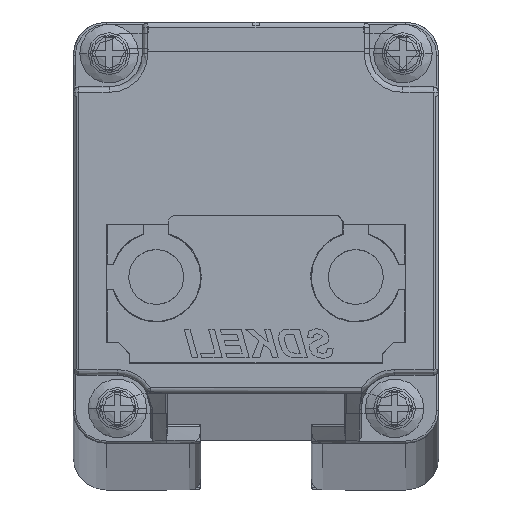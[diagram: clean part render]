
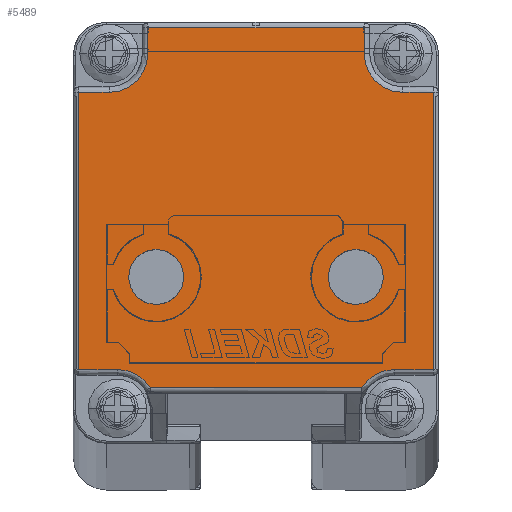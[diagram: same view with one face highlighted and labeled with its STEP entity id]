
A CAD part, top view. The second image highlights one B-rep face of the part: STEP entity #5489.
In plain terms, the highlighted planar face has unit normal (0, 0, 1).
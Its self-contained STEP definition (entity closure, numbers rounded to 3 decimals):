
#2552=CARTESIAN_POINT('',(4.,3.152,490.));
#2553=DIRECTION('',(0.,0.,1.));
#2554=DIRECTION('',(0.849,0.528,0.));
#2555=AXIS2_PLACEMENT_3D('',#2552,#2553,#2554);
#2557=CARTESIAN_POINT('',(3.25,35.15,490.));
#2558=DIRECTION('',(0.,0.,1.));
#2559=DIRECTION('',(0.,-1.,0.));
#2560=AXIS2_PLACEMENT_3D('',#2557,#2558,#2559);
#2562=CARTESIAN_POINT('',(29.75,35.15,490.));
#2563=DIRECTION('',(0.,0.,1.));
#2564=DIRECTION('',(-1.,0.,0.));
#2565=AXIS2_PLACEMENT_3D('',#2562,#2563,#2564);
#2567=CARTESIAN_POINT('',(29.,3.152,490.));
#2568=DIRECTION('',(0.,0.,1.));
#2569=DIRECTION('',(0.,1.,0.));
#2570=AXIS2_PLACEMENT_3D('',#2567,#2568,#2569);
#2572=CARTESIAN_POINT('',(7.5,15.002,490.));
#2573=DIRECTION('',(0.,0.,1.));
#2574=DIRECTION('',(1.,0.007,0.));
#2575=AXIS2_PLACEMENT_3D('',#2572,#2573,#2574);
#2577=CARTESIAN_POINT('',(7.5,15.002,490.));
#2578=DIRECTION('',(0.,0.,1.));
#2579=DIRECTION('',(-1.,-0.007,0.));
#2580=AXIS2_PLACEMENT_3D('',#2577,#2578,#2579);
#2582=CARTESIAN_POINT('',(25.5,15.,490.));
#2583=DIRECTION('',(0.,0.,1.));
#2584=DIRECTION('',(1.,-0.007,0.));
#2585=AXIS2_PLACEMENT_3D('',#2582,#2583,#2584);
#2587=CARTESIAN_POINT('',(25.5,15.,490.));
#2588=DIRECTION('',(0.,0.,1.));
#2589=DIRECTION('',(-1.,0.007,0.));
#2590=AXIS2_PLACEMENT_3D('',#2587,#2588,#2589);
#2632=DIRECTION('',(1.,0.,0.));
#2633=VECTOR('',#2632,19.056);
#2634=CARTESIAN_POINT('',(6.972,5.,490.));
#2635=LINE('',#2634,#2633);
#2957=DIRECTION('',(0.,1.,0.));
#2958=VECTOR('',#2957,2.35);
#2959=CARTESIAN_POINT('',(26.25,35.15,490.));
#2960=LINE('',#2959,#2958);
#2980=DIRECTION('',(-1.,0.,0.));
#2981=VECTOR('',#2980,19.5);
#2982=CARTESIAN_POINT('',(26.25,37.5,490.));
#2983=LINE('',#2982,#2981);
#3004=DIRECTION('',(0.,-1.,0.));
#3005=VECTOR('',#3004,2.35);
#3006=CARTESIAN_POINT('',(6.75,37.5,490.));
#3007=LINE('',#3006,#3005);
#3031=DIRECTION('',(-1.,0.,0.));
#3032=VECTOR('',#3031,2.75);
#3033=CARTESIAN_POINT('',(3.25,31.65,490.));
#3034=LINE('',#3033,#3032);
#3185=DIRECTION('',(0.,-1.,0.));
#3186=VECTOR('',#3185,24.998);
#3187=CARTESIAN_POINT('',(0.5,31.65,490.));
#3188=LINE('',#3187,#3186);
#3224=DIRECTION('',(1.,0.,0.));
#3225=VECTOR('',#3224,3.5);
#3226=CARTESIAN_POINT('',(0.5,6.652,490.));
#3227=LINE('',#3226,#3225);
#3590=DIRECTION('',(-1.,0.,0.));
#3591=VECTOR('',#3590,2.75);
#3592=CARTESIAN_POINT('',(32.5,31.65,490.));
#3593=LINE('',#3592,#3591);
#3740=DIRECTION('',(1.,0.,0.));
#3741=VECTOR('',#3740,3.5);
#3742=CARTESIAN_POINT('',(29.,6.652,490.));
#3743=LINE('',#3742,#3741);
#3775=DIRECTION('',(0.,1.,0.));
#3776=VECTOR('',#3775,24.998);
#3777=CARTESIAN_POINT('',(32.5,6.652,490.));
#3778=LINE('',#3777,#3776);
#4816=CARTESIAN_POINT('',(10.,15.018,490.));
#4817=VERTEX_POINT('',#4816);
#4818=CARTESIAN_POINT('',(5.,14.986,490.));
#4819=VERTEX_POINT('',#4818);
#4820=CARTESIAN_POINT('',(6.972,5.,490.));
#4821=CARTESIAN_POINT('',(4.,6.652,490.));
#4822=VERTEX_POINT('',#4820);
#4823=VERTEX_POINT('',#4821);
#4824=CARTESIAN_POINT('',(0.5,6.652,490.));
#4825=VERTEX_POINT('',#4824);
#4826=CARTESIAN_POINT('',(0.5,31.65,490.));
#4827=VERTEX_POINT('',#4826);
#4828=CARTESIAN_POINT('',(3.25,31.65,490.));
#4829=VERTEX_POINT('',#4828);
#4830=CARTESIAN_POINT('',(6.75,35.15,490.));
#4831=VERTEX_POINT('',#4830);
#4832=CARTESIAN_POINT('',(6.75,37.5,490.));
#4833=VERTEX_POINT('',#4832);
#4834=CARTESIAN_POINT('',(26.25,37.5,490.));
#4835=VERTEX_POINT('',#4834);
#4836=CARTESIAN_POINT('',(26.25,35.15,490.));
#4837=VERTEX_POINT('',#4836);
#4838=CARTESIAN_POINT('',(29.75,31.65,490.));
#4839=VERTEX_POINT('',#4838);
#4840=CARTESIAN_POINT('',(32.5,31.65,490.));
#4841=VERTEX_POINT('',#4840);
#4842=CARTESIAN_POINT('',(32.5,6.652,490.));
#4843=VERTEX_POINT('',#4842);
#4844=CARTESIAN_POINT('',(29.,6.652,490.));
#4845=VERTEX_POINT('',#4844);
#4846=CARTESIAN_POINT('',(26.028,5.,490.));
#4847=VERTEX_POINT('',#4846);
#4848=CARTESIAN_POINT('',(28.,14.984,490.));
#4849=CARTESIAN_POINT('',(23.,15.017,490.));
#4850=VERTEX_POINT('',#4848);
#4851=VERTEX_POINT('',#4849);
#5444=CARTESIAN_POINT('',(16.5,24.,490.));
#5445=DIRECTION('',(0.,0.,1.));
#5446=DIRECTION('',(1.,0.,0.));
#5447=AXIS2_PLACEMENT_3D('',#5444,#5445,#5446);
#5448=PLANE('',#5447);
#5450=ORIENTED_EDGE('',*,*,#5449,.T.);
#5452=ORIENTED_EDGE('',*,*,#5451,.F.);
#5454=ORIENTED_EDGE('',*,*,#5453,.F.);
#5456=ORIENTED_EDGE('',*,*,#5455,.F.);
#5458=ORIENTED_EDGE('',*,*,#5457,.T.);
#5460=ORIENTED_EDGE('',*,*,#5459,.F.);
#5462=ORIENTED_EDGE('',*,*,#5461,.F.);
#5464=ORIENTED_EDGE('',*,*,#5463,.F.);
#5466=ORIENTED_EDGE('',*,*,#5465,.T.);
#5468=ORIENTED_EDGE('',*,*,#5467,.F.);
#5470=ORIENTED_EDGE('',*,*,#5469,.F.);
#5472=ORIENTED_EDGE('',*,*,#5471,.F.);
#5474=ORIENTED_EDGE('',*,*,#5473,.T.);
#5476=ORIENTED_EDGE('',*,*,#5475,.F.);
#5477=EDGE_LOOP('',(#5450,#5452,#5454,#5456,#5458,#5460,#5462,#5464,#5466,#5468,
#5470,#5472,#5474,#5476));
#5478=FACE_OUTER_BOUND('',#5477,.F.);
#5479=ORIENTED_EDGE('',*,*,#5431,.T.);
#5480=ORIENTED_EDGE('',*,*,#5392,.T.);
#5481=EDGE_LOOP('',(#5479,#5480));
#5482=FACE_BOUND('',#5481,.F.);
#5484=ORIENTED_EDGE('',*,*,#5483,.T.);
#5486=ORIENTED_EDGE('',*,*,#5485,.T.);
#5487=EDGE_LOOP('',(#5484,#5486));
#5488=FACE_BOUND('',#5487,.F.);
#2556=CIRCLE('',#2555,3.5);
#2561=CIRCLE('',#2560,3.5);
#2566=CIRCLE('',#2565,3.5);
#2571=CIRCLE('',#2570,3.5);
#2576=CIRCLE('',#2575,2.5);
#2581=CIRCLE('',#2580,2.5);
#2586=CIRCLE('',#2585,2.5);
#2591=CIRCLE('',#2590,2.5);
#5392=EDGE_CURVE('',#4819,#4817,#2581,.T.);
#5431=EDGE_CURVE('',#4817,#4819,#2576,.T.);
#5449=EDGE_CURVE('',#4822,#4823,#2556,.T.);
#5451=EDGE_CURVE('',#4825,#4823,#3227,.T.);
#5453=EDGE_CURVE('',#4827,#4825,#3188,.T.);
#5455=EDGE_CURVE('',#4829,#4827,#3034,.T.);
#5457=EDGE_CURVE('',#4829,#4831,#2561,.T.);
#5459=EDGE_CURVE('',#4833,#4831,#3007,.T.);
#5461=EDGE_CURVE('',#4835,#4833,#2983,.T.);
#5463=EDGE_CURVE('',#4837,#4835,#2960,.T.);
#5465=EDGE_CURVE('',#4837,#4839,#2566,.T.);
#5467=EDGE_CURVE('',#4841,#4839,#3593,.T.);
#5469=EDGE_CURVE('',#4843,#4841,#3778,.T.);
#5471=EDGE_CURVE('',#4845,#4843,#3743,.T.);
#5473=EDGE_CURVE('',#4845,#4847,#2571,.T.);
#5475=EDGE_CURVE('',#4822,#4847,#2635,.T.);
#5483=EDGE_CURVE('',#4850,#4851,#2586,.T.);
#5485=EDGE_CURVE('',#4851,#4850,#2591,.T.);
#5489=ADVANCED_FACE('',(#5478,#5482,#5488),#5448,.T.);
